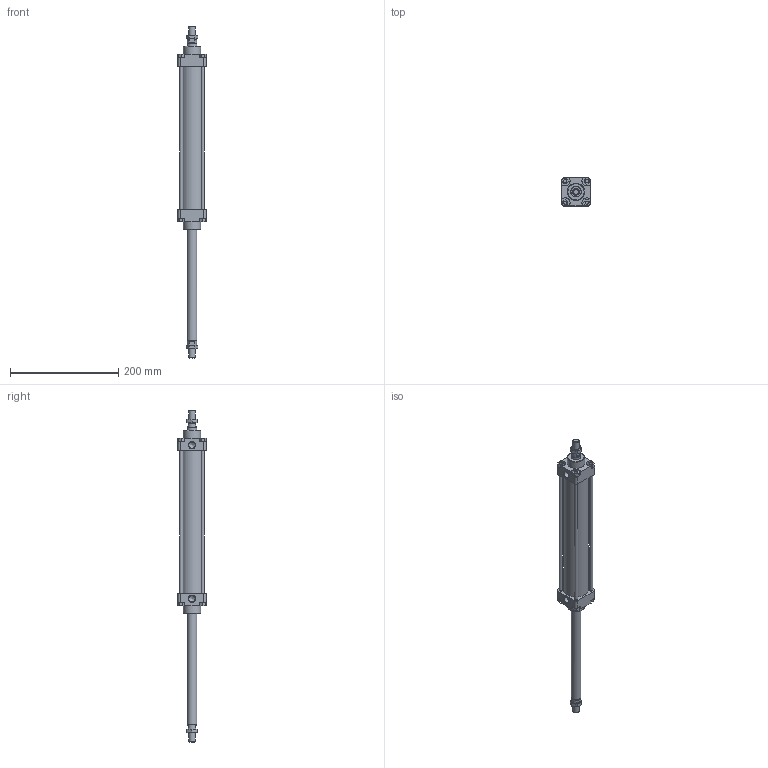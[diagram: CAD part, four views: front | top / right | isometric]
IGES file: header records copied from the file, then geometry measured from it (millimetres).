
Global section: file name: 130#_040_0200_02A; native system: Autodesk Inventor 2014; preprocessor: unknown; author: A. Manieri; date: 20161123.143751; units: millimetre
Bounding box: 52 x 52 x 614 mm (x, y, z)
Volume: 448657.7 mm3; surface area: 166152.3 mm2
Topology: 10 solids, 10 shells, 187 faces, 467 edges, 314 vertices
Faces by surface type: bspline 187
